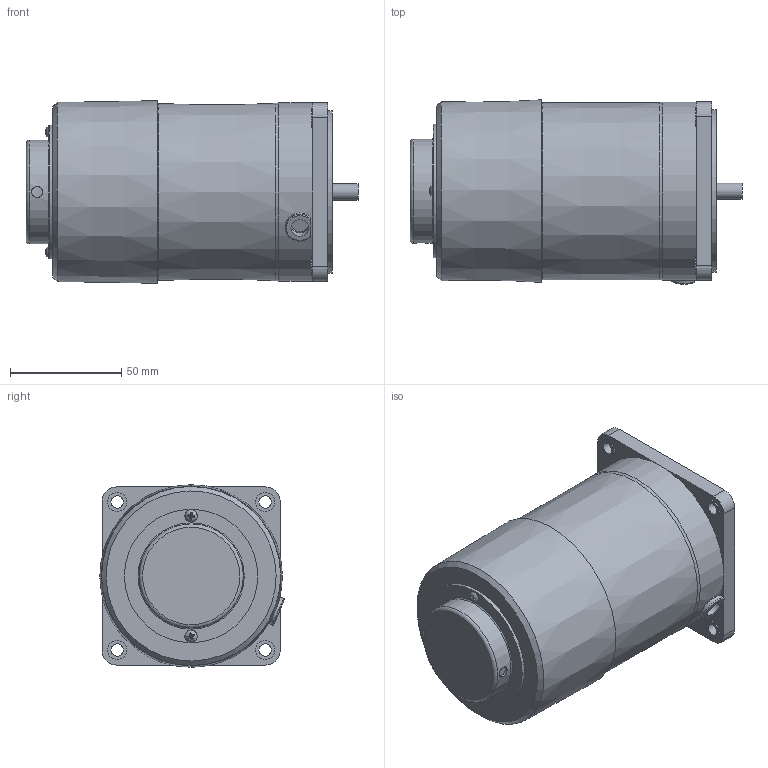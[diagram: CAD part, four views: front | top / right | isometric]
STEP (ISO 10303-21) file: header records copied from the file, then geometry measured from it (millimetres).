
FILE_DESCRIPTION((''),'2;1');
FILE_NAME('D:\김성묵\업무폴더\개발 파일\프로젝트 개발 AB등급\AC표준형 개발자료\90각 이하 표준형 개발\도면작성 자료\3D 도면\홈페이지용 3D 파일\25W MOTOR\ES TYPE\S8R15(25)G-ES.stp','2015-03-30T20:20:41',('smkim'),(''),'Autodesk Inventor 2012','Autodesk Inventor 2012','');
FILE_SCHEMA(('AUTOMOTIVE_DESIGN { 1 0 10303 214 1 1 1 1 }'));
Length unit declared in the file: millimetre
Products named in the file (1): 부품110
Bounding box: 149.1 x 82.79 x 82 mm (x, y, z)
Volume: 651665.7 mm3; surface area: 50518.2 mm2
Topology: 1 solids, 6 shells, 143 faces, 326 edges, 213 vertices
Faces by surface type: plane 86, cylinder 43, torus 9, cone 3, bspline 2
Full cylindrical faces by diameter (mm): 3 x2, 3.5 x2, 5 x1, 5.5 x4, 5.6 x2, 7.2 x1, 8 x1, 8.5 x4, 34 x1, 44.7 x1, 46.7 x1, 47.7 x1, 59.9 x1, 73 x1, 78 x1, 80 x1
Entity records: 4114 total; most frequent: CARTESIAN_POINT 964, DIRECTION 632, ORIENTED_EDGE 560, EDGE_CURVE 280, AXIS2_PLACEMENT_3D 241, EDGE_LOOP 213, VERTEX_POINT 205, VECTOR 150
